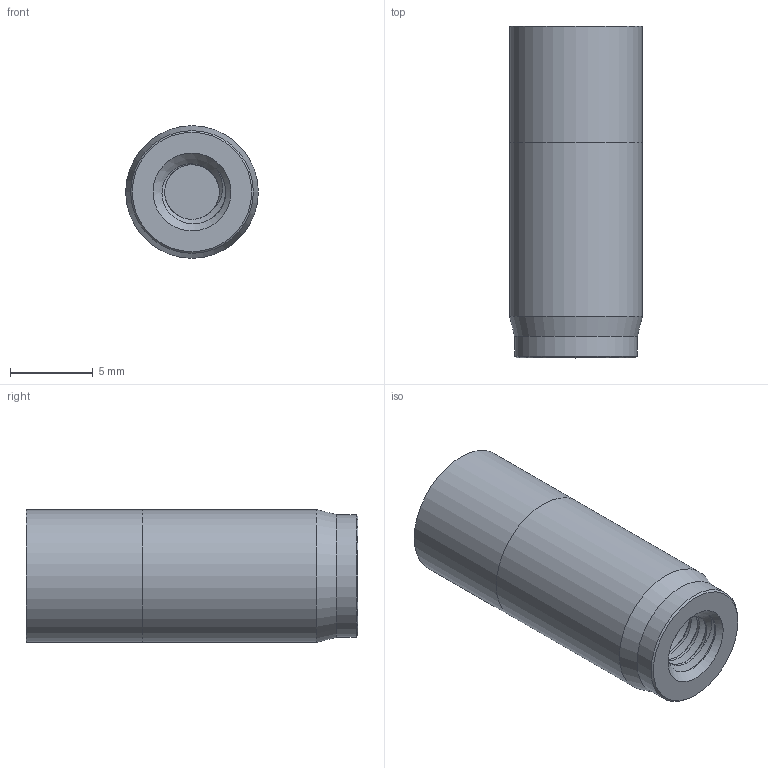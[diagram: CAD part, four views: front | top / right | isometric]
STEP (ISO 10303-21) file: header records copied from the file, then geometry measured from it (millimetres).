
FILE_DESCRIPTION (( 'STEP AP214' ), '1' );
FILE_NAME ('DAP-8.STEP', '2018-10-09T17:56:33', ( '' ), ( '' ), 'SwSTEP 2.0', 'SolidWorks 2017', '' );
FILE_SCHEMA (( 'AUTOMOTIVE_DESIGN' ));
Length unit declared in the file: millimetre
Products named in the file (1): DAP-8
Bounding box: 8 x 20.01 x 8 mm (x, y, z)
Volume: 868.8 mm3; surface area: 846.1 mm2
Topology: 2 solids, 2 shells, 89 faces, 230 edges, 153 vertices
Faces by surface type: plane 44, cylinder 39, cone 3, bspline 3
Full cylindrical faces by diameter (mm): 3.3 x5, 4.6 x1, 7.4 x1, 8 x2
Entity records: 3520 total; most frequent: CARTESIAN_POINT 1524, ORIENTED_EDGE 406, DIRECTION 299, EDGE_CURVE 203, VERTEX_POINT 139, VECTOR 111, LINE 111, EDGE_LOOP 102
